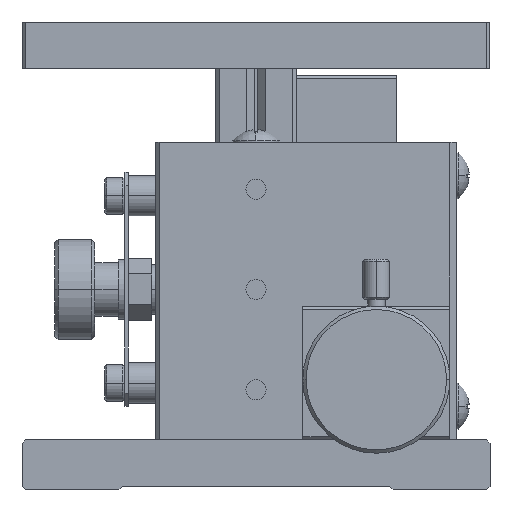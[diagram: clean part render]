
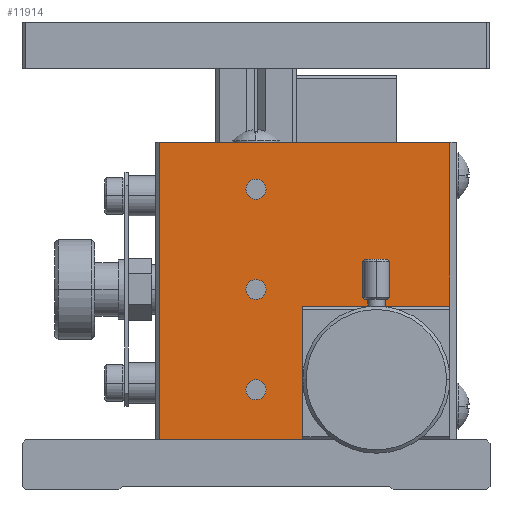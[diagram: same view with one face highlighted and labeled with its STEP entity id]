
A CAD part, left-side view. The second image highlights one B-rep face of the part: STEP entity #11914.
In plain terms, the highlighted planar face has unit normal (-1, 0, 0).
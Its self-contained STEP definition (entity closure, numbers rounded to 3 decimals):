
#357 = EDGE_CURVE ( 'NONE', #5724, #358, #19312, .T. ) ;
#358 = VERTEX_POINT ( 'NONE', #19305 ) ;
#5708 = VERTEX_POINT ( 'NONE', #34531 ) ;
#5719 = VERTEX_POINT ( 'NONE', #34568 ) ;
#5724 = VERTEX_POINT ( 'NONE', #34559 ) ;
#5728 = VERTEX_POINT ( 'NONE', #34619 ) ;
#5732 = VERTEX_POINT ( 'NONE', #34611 ) ;
#5734 = EDGE_CURVE ( 'NONE', #5708, #5719, #34610, .T. ) ;
#5737 = EDGE_CURVE ( 'NONE', #5732, #5728, #34605, .T. ) ;
#6460 = VERTEX_POINT ( 'NONE', #35961 ) ;
#6462 = EDGE_CURVE ( 'NONE', #6460, #6463, #35960, .T. ) ;
#6463 = VERTEX_POINT ( 'NONE', #35956 ) ;
#6667 = EDGE_CURVE ( 'NONE', #8289, #8285, #36276, .T. ) ;
#8270 = VERTEX_POINT ( 'NONE', #38807 ) ;
#8272 = EDGE_CURVE ( 'NONE', #8289, #8270, #38806, .T. ) ;
#8285 = VERTEX_POINT ( 'NONE', #38850 ) ;
#8289 = VERTEX_POINT ( 'NONE', #38845 ) ;
#8325 = EDGE_CURVE ( 'NONE', #8285, #6460, #38921, .T. ) ;
#11538 = EDGE_CURVE ( 'NONE', #358, #5724, #44083, .T. ) ;
#11546 = EDGE_CURVE ( 'NONE', #5728, #5732, #44067, .T. ) ;
#11605 = EDGE_CURVE ( 'NONE', #5719, #5708, #44181, .T. ) ;
#11749 = VERTEX_POINT ( 'NONE', #14136 ) ;
#11751 = EDGE_CURVE ( 'NONE', #8270, #11749, #14131, .T. ) ;
#11857 = EDGE_CURVE ( 'NONE', #11749, #6463, #14322, .T. ) ;
#11903 = ORIENTED_EDGE ( 'NONE', *, *, #8325, .F. ) ;
#11904 = ORIENTED_EDGE ( 'NONE', *, *, #6667, .F. ) ;
#11905 = ORIENTED_EDGE ( 'NONE', *, *, #8272, .T. ) ;
#11906 = ORIENTED_EDGE ( 'NONE', *, *, #11751, .T. ) ;
#11907 = ORIENTED_EDGE ( 'NONE', *, *, #11857, .T. ) ;
#11914 = ADVANCED_FACE ( 'NONE', ( #14531, #14529, #14527, #14525 ), #14524, .T. ) ;
#11915 = EDGE_LOOP ( 'NONE', ( #11916, #11917 ) ) ;
#11916 = ORIENTED_EDGE ( 'NONE', *, *, #11538, .F. ) ;
#11917 = ORIENTED_EDGE ( 'NONE', *, *, #357, .F. ) ;
#11918 = EDGE_LOOP ( 'NONE', ( #11919, #11920 ) ) ;
#11919 = ORIENTED_EDGE ( 'NONE', *, *, #11546, .F. ) ;
#11920 = ORIENTED_EDGE ( 'NONE', *, *, #5737, .F. ) ;
#11921 = EDGE_LOOP ( 'NONE', ( #11922, #11923 ) ) ;
#11922 = ORIENTED_EDGE ( 'NONE', *, *, #11605, .F. ) ;
#11923 = ORIENTED_EDGE ( 'NONE', *, *, #5734, .F. ) ;
#11924 = EDGE_LOOP ( 'NONE', ( #11925, #11903, #11904, #11905, #11906, #11907 ) ) ;
#11925 = ORIENTED_EDGE ( 'NONE', *, *, #6462, .F. ) ;
#14126 = DIRECTION ( 'NONE',  ( 0., 1., 0. ) ) ;
#14128 = VECTOR ( 'NONE', #14126, 1000. ) ;
#14130 = CARTESIAN_POINT ( 'NONE',  ( -34., -7., 52. ) ) ;
#14131 = LINE ( 'NONE', #14130, #14128 ) ;
#14136 = CARTESIAN_POINT ( 'NONE',  ( -34., 14.5, 52. ) ) ;
#14318 = DIRECTION ( 'NONE',  ( 0., 0., -1. ) ) ;
#14319 = VECTOR ( 'NONE', #14318, 1000. ) ;
#14321 = CARTESIAN_POINT ( 'NONE',  ( -34., 14.5, 52. ) ) ;
#14322 = LINE ( 'NONE', #14321, #14319 ) ;
#14515 = DIRECTION ( 'NONE',  ( 0., 0., 1. ) ) ;
#14517 = DIRECTION ( 'NONE',  ( -1., 0., 0. ) ) ;
#14518 = CARTESIAN_POINT ( 'NONE',  ( -34., -7., 52. ) ) ;
#14519 = AXIS2_PLACEMENT_3D ( 'NONE', #14518, #14517, #14515 ) ;
#14524 = PLANE ( 'NONE',  #14519 ) ;
#14525 = FACE_OUTER_BOUND ( 'NONE', #11924, .T. ) ;
#14527 = FACE_BOUND ( 'NONE', #11921, .T. ) ;
#14529 = FACE_BOUND ( 'NONE', #11918, .T. ) ;
#14531 = FACE_BOUND ( 'NONE', #11915, .T. ) ;
#19305 = CARTESIAN_POINT ( 'NONE',  ( -34., 0., 46.5 ) ) ;
#19306 = DIRECTION ( 'NONE',  ( 0., 0., 1. ) ) ;
#19307 = DIRECTION ( 'NONE',  ( -1., 0., 0. ) ) ;
#19308 = CARTESIAN_POINT ( 'NONE',  ( -34., 0., 45. ) ) ;
#19310 = AXIS2_PLACEMENT_3D ( 'NONE', #19308, #19307, #19306 ) ;
#19312 = CIRCLE ( 'NONE', #19310, 1.5 ) ;
#34531 = CARTESIAN_POINT ( 'NONE',  ( -34., 0., 13.5 ) ) ;
#34559 = CARTESIAN_POINT ( 'NONE',  ( -34., 0., 43.5 ) ) ;
#34568 = CARTESIAN_POINT ( 'NONE',  ( -34., 0., 16.5 ) ) ;
#34601 = DIRECTION ( 'NONE',  ( 0., 0., 1. ) ) ;
#34602 = DIRECTION ( 'NONE',  ( -1., 0., 0. ) ) ;
#34603 = CARTESIAN_POINT ( 'NONE',  ( -34., 0., 30. ) ) ;
#34604 = AXIS2_PLACEMENT_3D ( 'NONE', #34603, #34602, #34601 ) ;
#34605 = CIRCLE ( 'NONE', #34604, 1.5 ) ;
#34606 = DIRECTION ( 'NONE',  ( 0., 0., 1. ) ) ;
#34607 = DIRECTION ( 'NONE',  ( -1., 0., 0. ) ) ;
#34608 = CARTESIAN_POINT ( 'NONE',  ( -34., 0., 15. ) ) ;
#34609 = AXIS2_PLACEMENT_3D ( 'NONE', #34608, #34607, #34606 ) ;
#34610 = CIRCLE ( 'NONE', #34609, 1.5 ) ;
#34611 = CARTESIAN_POINT ( 'NONE',  ( -34., 0., 28.5 ) ) ;
#34619 = CARTESIAN_POINT ( 'NONE',  ( -34., 0., 31.5 ) ) ;
#35956 = CARTESIAN_POINT ( 'NONE',  ( -34., 14.5, 7.5 ) ) ;
#35957 = DIRECTION ( 'NONE',  ( 0., 1., 0. ) ) ;
#35958 = VECTOR ( 'NONE', #35957, 1000. ) ;
#35959 = CARTESIAN_POINT ( 'NONE',  ( -34., -7., 7.5 ) ) ;
#35960 = LINE ( 'NONE', #35959, #35958 ) ;
#35961 = CARTESIAN_POINT ( 'NONE',  ( -34., -7., 7.5 ) ) ;
#36273 = DIRECTION ( 'NONE',  ( 0., 1., 0. ) ) ;
#36274 = VECTOR ( 'NONE', #36273, 1000. ) ;
#36275 = CARTESIAN_POINT ( 'NONE',  ( -34., -29., 27.5 ) ) ;
#36276 = LINE ( 'NONE', #36275, #36274 ) ;
#38803 = DIRECTION ( 'NONE',  ( 0., 0., 1. ) ) ;
#38804 = VECTOR ( 'NONE', #38803, 1000. ) ;
#38805 = CARTESIAN_POINT ( 'NONE',  ( -34., -29., 27.5 ) ) ;
#38806 = LINE ( 'NONE', #38805, #38804 ) ;
#38807 = CARTESIAN_POINT ( 'NONE',  ( -34., -29., 52. ) ) ;
#38845 = CARTESIAN_POINT ( 'NONE',  ( -34., -29., 27.5 ) ) ;
#38850 = CARTESIAN_POINT ( 'NONE',  ( -34., -7., 27.5 ) ) ;
#38897 = DIRECTION ( 'NONE',  ( 0., 0., -1. ) ) ;
#38898 = VECTOR ( 'NONE', #38897, 1000. ) ;
#38899 = CARTESIAN_POINT ( 'NONE',  ( -34., -7., 52. ) ) ;
#38921 = LINE ( 'NONE', #38899, #38898 ) ;
#44066 = CARTESIAN_POINT ( 'NONE',  ( -34., 0., 30. ) ) ;
#44067 = CIRCLE ( 'NONE', #44132, 1.5 ) ;
#44079 = DIRECTION ( 'NONE',  ( 0., 0., 1. ) ) ;
#44080 = DIRECTION ( 'NONE',  ( -1., 0., 0. ) ) ;
#44081 = CARTESIAN_POINT ( 'NONE',  ( -34., 0., 45. ) ) ;
#44082 = AXIS2_PLACEMENT_3D ( 'NONE', #44081, #44080, #44079 ) ;
#44083 = CIRCLE ( 'NONE', #44082, 1.5 ) ;
#44130 = DIRECTION ( 'NONE',  ( 0., 0., 1. ) ) ;
#44131 = DIRECTION ( 'NONE',  ( -1., 0., 0. ) ) ;
#44132 = AXIS2_PLACEMENT_3D ( 'NONE', #44066, #44131, #44130 ) ;
#44177 = DIRECTION ( 'NONE',  ( 0., 0., 1. ) ) ;
#44178 = DIRECTION ( 'NONE',  ( -1., 0., 0. ) ) ;
#44179 = CARTESIAN_POINT ( 'NONE',  ( -34., 0., 15. ) ) ;
#44180 = AXIS2_PLACEMENT_3D ( 'NONE', #44179, #44178, #44177 ) ;
#44181 = CIRCLE ( 'NONE', #44180, 1.5 ) ;
